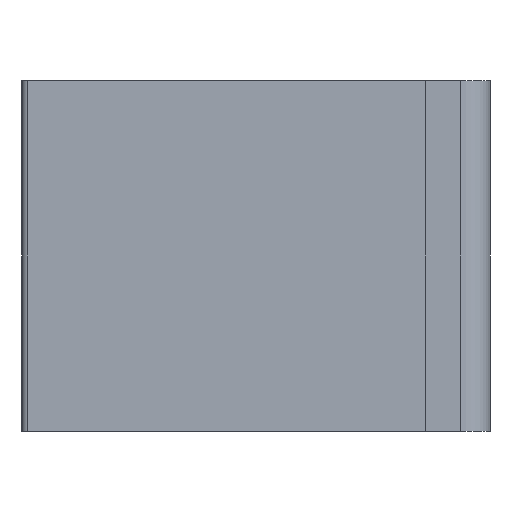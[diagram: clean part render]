
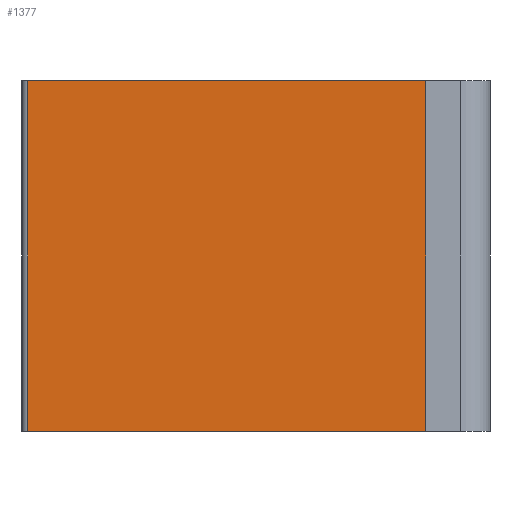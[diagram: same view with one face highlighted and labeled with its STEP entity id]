
A CAD part, left-side view. The second image highlights one B-rep face of the part: STEP entity #1377.
In plain terms, the highlighted planar face has unit normal (-1, 0.012, 0).
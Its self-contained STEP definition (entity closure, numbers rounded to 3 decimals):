
#12 = LINE ( 'NONE', #2577, #86 ) ;
#85 = ORIENTED_EDGE ( 'NONE', *, *, #725, .T. ) ;
#86 = VECTOR ( 'NONE', #834, 1000. ) ;
#123 = EDGE_LOOP ( 'NONE', ( #1445, #2667, #85, #2703 ) ) ;
#194 = VERTEX_POINT ( 'NONE', #2198 ) ;
#205 = CARTESIAN_POINT ( 'NONE',  ( 0.394, 39.506, 0. ) ) ;
#411 = CARTESIAN_POINT ( 'NONE',  ( 0.394, 39.506, 0. ) ) ;
#469 = DIRECTION ( 'NONE',  ( 0., 0., 1. ) ) ;
#725 = EDGE_CURVE ( 'NONE', #194, #2303, #12, .T. ) ;
#785 = DIRECTION ( 'NONE',  ( -0.012, -1., 0. ) ) ;
#834 = DIRECTION ( 'NONE',  ( -0.012, -1., 0. ) ) ;
#877 = DIRECTION ( 'NONE',  ( 0., 0., 1. ) ) ;
#976 = DIRECTION ( 'NONE',  ( -0.012, -1., 0. ) ) ;
#1004 = CARTESIAN_POINT ( 'NONE',  ( 0., 5.5, -30. ) ) ;
#1159 = VECTOR ( 'NONE', #469, 1000. ) ;
#1215 = DIRECTION ( 'NONE',  ( -1., 0.012, 0. ) ) ;
#1240 = FACE_OUTER_BOUND ( 'NONE', #123, .T. ) ;
#1377 = ADVANCED_FACE ( 'NONE', ( #1240 ), #1894, .T. ) ;
#1387 = EDGE_CURVE ( 'NONE', #194, #1937, #2422, .T. ) ;
#1445 = ORIENTED_EDGE ( 'NONE', *, *, #2836, .F. ) ;
#1548 = VECTOR ( 'NONE', #877, 1000. ) ;
#1619 = LINE ( 'NONE', #1996, #1548 ) ;
#1806 = CARTESIAN_POINT ( 'NONE',  ( 0., 5.5, 0. ) ) ;
#1894 = PLANE ( 'NONE',  #2493 ) ;
#1903 = LINE ( 'NONE', #411, #2427 ) ;
#1921 = EDGE_CURVE ( 'NONE', #2303, #1952, #1619, .T. ) ;
#1937 = VERTEX_POINT ( 'NONE', #205 ) ;
#1952 = VERTEX_POINT ( 'NONE', #1806 ) ;
#1996 = CARTESIAN_POINT ( 'NONE',  ( 0., 5.5, -30. ) ) ;
#2198 = CARTESIAN_POINT ( 'NONE',  ( 0.394, 39.506, -30. ) ) ;
#2303 = VERTEX_POINT ( 'NONE', #1004 ) ;
#2342 = CARTESIAN_POINT ( 'NONE',  ( 0.394, 39.506, -30. ) ) ;
#2422 = LINE ( 'NONE', #2342, #1159 ) ;
#2427 = VECTOR ( 'NONE', #976, 1000. ) ;
#2493 = AXIS2_PLACEMENT_3D ( 'NONE', #2563, #1215, #785 ) ;
#2563 = CARTESIAN_POINT ( 'NONE',  ( 0.394, 39.506, -30. ) ) ;
#2577 = CARTESIAN_POINT ( 'NONE',  ( 0.394, 39.506, -30. ) ) ;
#2667 = ORIENTED_EDGE ( 'NONE', *, *, #1387, .F. ) ;
#2703 = ORIENTED_EDGE ( 'NONE', *, *, #1921, .T. ) ;
#2836 = EDGE_CURVE ( 'NONE', #1937, #1952, #1903, .T. ) ;
